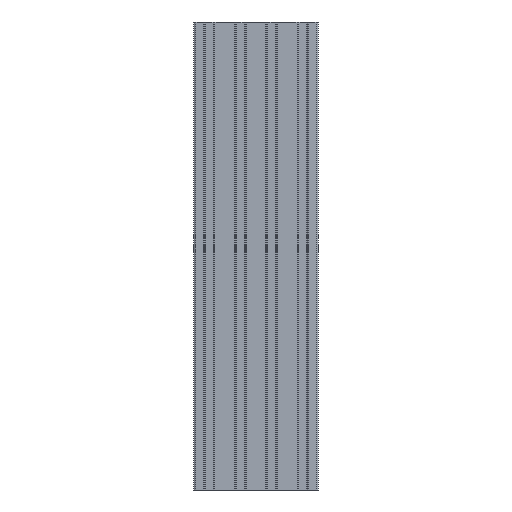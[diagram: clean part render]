
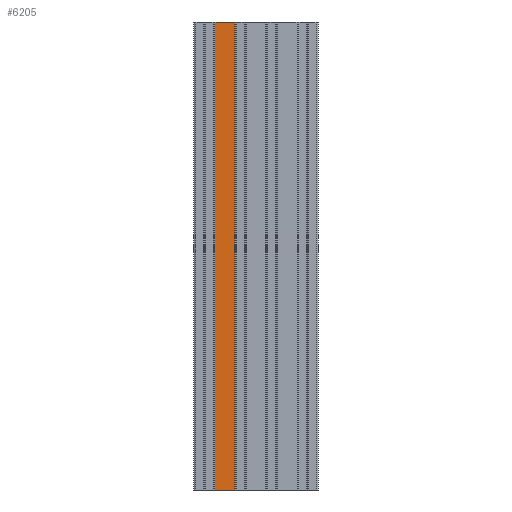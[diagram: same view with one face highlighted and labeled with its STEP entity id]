
A CAD part, front view. The second image highlights one B-rep face of the part: STEP entity #6205.
In plain terms, the highlighted planar face has unit normal (0, -1, 0).
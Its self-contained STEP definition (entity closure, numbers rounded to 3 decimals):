
#151 = ORIENTED_EDGE ( 'NONE', *, *, #6303, .T. ) ;
#166 = LINE ( 'NONE', #4488, #3502 ) ;
#277 = DIRECTION ( 'NONE',  ( 0., 1., 0. ) ) ;
#473 = ORIENTED_EDGE ( 'NONE', *, *, #5476, .F. ) ;
#508 = AXIS2_PLACEMENT_3D ( 'NONE', #1021, #277, #6791 ) ;
#534 = DIRECTION ( 'NONE',  ( 0., 0., -1. ) ) ;
#555 = VECTOR ( 'NONE', #534, 1000. ) ;
#866 = DIRECTION ( 'NONE',  ( 0., 0., -1. ) ) ;
#881 = VERTEX_POINT ( 'NONE', #2079 ) ;
#1021 = CARTESIAN_POINT ( 'NONE',  ( -13.7, -10., 150. ) ) ;
#1283 = CARTESIAN_POINT ( 'NONE',  ( -26.3, -10., 150. ) ) ;
#1615 = CARTESIAN_POINT ( 'NONE',  ( -13.7, -10., 150. ) ) ;
#1694 = VERTEX_POINT ( 'NONE', #4638 ) ;
#1783 = PLANE ( 'NONE',  #508 ) ;
#2030 = LINE ( 'NONE', #1283, #555 ) ;
#2079 = CARTESIAN_POINT ( 'NONE',  ( -26.3, -10., -150. ) ) ;
#2224 = CARTESIAN_POINT ( 'NONE',  ( -13.7, -10., 150. ) ) ;
#2385 = LINE ( 'NONE', #1615, #5507 ) ;
#3502 = VECTOR ( 'NONE', #3756, 1000. ) ;
#3756 = DIRECTION ( 'NONE',  ( 1., 0., 0. ) ) ;
#4344 = ORIENTED_EDGE ( 'NONE', *, *, #6754, .T. ) ;
#4394 = VERTEX_POINT ( 'NONE', #6129 ) ;
#4488 = CARTESIAN_POINT ( 'NONE',  ( -13.7, -10., -150. ) ) ;
#4638 = CARTESIAN_POINT ( 'NONE',  ( -26.3, -10., 150. ) ) ;
#4753 = VERTEX_POINT ( 'NONE', #2224 ) ;
#4878 = VECTOR ( 'NONE', #5176, 1000. ) ;
#4992 = FACE_OUTER_BOUND ( 'NONE', #5280, .T. ) ;
#5176 = DIRECTION ( 'NONE',  ( 1., 0., 0. ) ) ;
#5280 = EDGE_LOOP ( 'NONE', ( #4344, #6484, #473, #151 ) ) ;
#5476 = EDGE_CURVE ( 'NONE', #1694, #4753, #6073, .T. ) ;
#5507 = VECTOR ( 'NONE', #866, 1000. ) ;
#5908 = CARTESIAN_POINT ( 'NONE',  ( -13.7, -10., 150. ) ) ;
#6073 = LINE ( 'NONE', #5908, #4878 ) ;
#6129 = CARTESIAN_POINT ( 'NONE',  ( -13.7, -10., -150. ) ) ;
#6205 = ADVANCED_FACE ( 'NONE', ( #4992 ), #1783, .F. ) ;
#6303 = EDGE_CURVE ( 'NONE', #1694, #881, #2030, .T. ) ;
#6484 = ORIENTED_EDGE ( 'NONE', *, *, #6663, .F. ) ;
#6663 = EDGE_CURVE ( 'NONE', #4753, #4394, #2385, .T. ) ;
#6754 = EDGE_CURVE ( 'NONE', #881, #4394, #166, .T. ) ;
#6791 = DIRECTION ( 'NONE',  ( 0., 0., 1. ) ) ;
